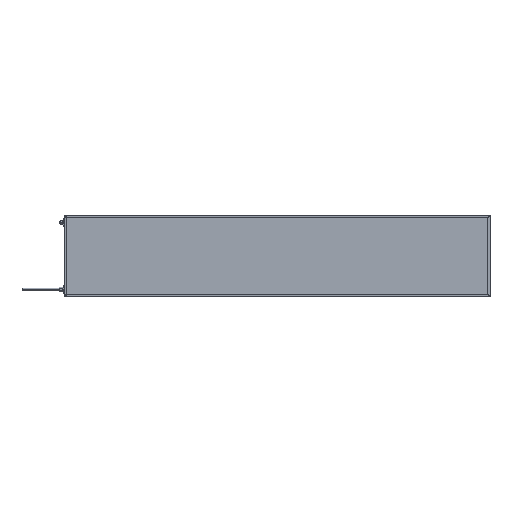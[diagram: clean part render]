
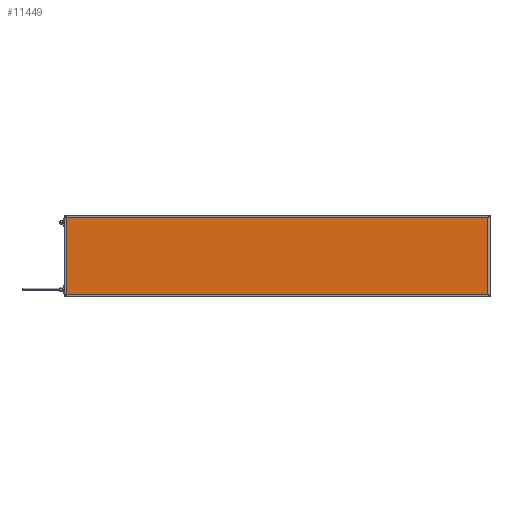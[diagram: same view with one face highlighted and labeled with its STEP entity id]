
A CAD part, top view. The second image highlights one B-rep face of the part: STEP entity #11449.
In plain terms, the highlighted planar face has unit normal (0, 0, 1).
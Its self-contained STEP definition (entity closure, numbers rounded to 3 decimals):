
#86 = CARTESIAN_POINT ( 'NONE',  ( 4., 4., 41.85 ) ) ;
#157 = VERTEX_POINT ( 'NONE', #4485 ) ;
#1471 = CARTESIAN_POINT ( 'NONE',  ( 1596., 296., 41.85 ) ) ;
#1579 = VECTOR ( 'NONE', #13761, 1000. ) ;
#2540 = ORIENTED_EDGE ( 'NONE', *, *, #12131, .T. ) ;
#2689 = LINE ( 'NONE', #8165, #8152 ) ;
#2948 = VERTEX_POINT ( 'NONE', #17458 ) ;
#3016 = EDGE_CURVE ( 'NONE', #157, #8657, #2689, .T. ) ;
#3404 = ORIENTED_EDGE ( 'NONE', *, *, #3016, .T. ) ;
#3585 = VECTOR ( 'NONE', #13217, 1000. ) ;
#3845 = VECTOR ( 'NONE', #7751, 1000. ) ;
#4229 = ORIENTED_EDGE ( 'NONE', *, *, #16133, .T. ) ;
#4485 = CARTESIAN_POINT ( 'NONE',  ( 1596., 4., 41.85 ) ) ;
#5991 = AXIS2_PLACEMENT_3D ( 'NONE', #13539, #12445, #18010 ) ;
#7198 = EDGE_CURVE ( 'NONE', #8657, #2948, #10442, .T. ) ;
#7677 = CARTESIAN_POINT ( 'NONE',  ( 0., 4., 41.85 ) ) ;
#7751 = DIRECTION ( 'NONE',  ( 0., -1., 0. ) ) ;
#7998 = PLANE ( 'NONE',  #5991 ) ;
#8152 = VECTOR ( 'NONE', #15340, 1000. ) ;
#8165 = CARTESIAN_POINT ( 'NONE',  ( 1596., 0., 41.85 ) ) ;
#8657 = VERTEX_POINT ( 'NONE', #1471 ) ;
#10442 = LINE ( 'NONE', #17446, #1579 ) ;
#10737 = FACE_OUTER_BOUND ( 'NONE', #15997, .T. ) ;
#10788 = VERTEX_POINT ( 'NONE', #86 ) ;
#11449 = ADVANCED_FACE ( 'NONE', ( #10737 ), #7998, .F. ) ;
#12049 = LINE ( 'NONE', #7677, #3585 ) ;
#12120 = CARTESIAN_POINT ( 'NONE',  ( 4., 0., 41.85 ) ) ;
#12131 = EDGE_CURVE ( 'NONE', #2948, #10788, #14931, .T. ) ;
#12445 = DIRECTION ( 'NONE',  ( 0., 0., -1. ) ) ;
#13217 = DIRECTION ( 'NONE',  ( 1., 0., 0. ) ) ;
#13539 = CARTESIAN_POINT ( 'NONE',  ( 0., 0., 41.85 ) ) ;
#13761 = DIRECTION ( 'NONE',  ( -1., 0., 0. ) ) ;
#14931 = LINE ( 'NONE', #12120, #3845 ) ;
#15340 = DIRECTION ( 'NONE',  ( 0., 1., 0. ) ) ;
#15415 = ORIENTED_EDGE ( 'NONE', *, *, #7198, .T. ) ;
#15997 = EDGE_LOOP ( 'NONE', ( #3404, #15415, #2540, #4229 ) ) ;
#16133 = EDGE_CURVE ( 'NONE', #10788, #157, #12049, .T. ) ;
#17446 = CARTESIAN_POINT ( 'NONE',  ( 0., 296., 41.85 ) ) ;
#17458 = CARTESIAN_POINT ( 'NONE',  ( 4., 296., 41.85 ) ) ;
#18010 = DIRECTION ( 'NONE',  ( -1., 0., 0. ) ) ;
